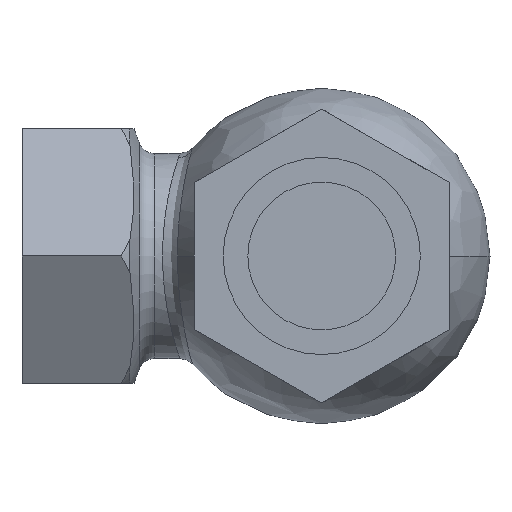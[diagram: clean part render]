
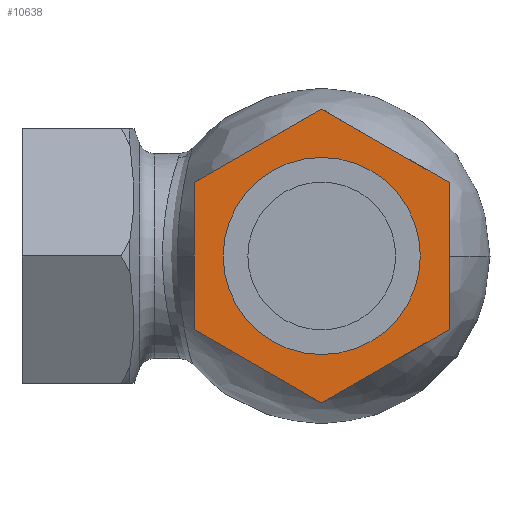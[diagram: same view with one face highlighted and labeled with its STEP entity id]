
A CAD part, front view. The second image highlights one B-rep face of the part: STEP entity #10638.
In plain terms, the highlighted planar face has unit normal (0, -1, 0).
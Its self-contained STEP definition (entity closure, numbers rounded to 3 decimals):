
#314 = VECTOR ( 'NONE', #8858, 1000. ) ;
#316 = LINE ( 'NONE', #1165, #314 ) ;
#414 = DIRECTION ( 'NONE',  ( 0., 1., 0. ) ) ;
#592 = ORIENTED_EDGE ( 'NONE', *, *, #2344, .T. ) ;
#664 = CARTESIAN_POINT ( 'NONE',  ( -15.5, -30.3, 8.949 ) ) ;
#935 = DIRECTION ( 'NONE',  ( 0., 1., 0. ) ) ;
#956 = CARTESIAN_POINT ( 'NONE',  ( -15.5, -30.3, -8.949 ) ) ;
#1165 = CARTESIAN_POINT ( 'NONE',  ( 15.5, -30.3, -8.949 ) ) ;
#1255 = VERTEX_POINT ( 'NONE', #2432 ) ;
#1376 = CIRCLE ( 'NONE', #9179, 12. ) ;
#1392 = CARTESIAN_POINT ( 'NONE',  ( 15.5, -30.3, -8.949 ) ) ;
#1470 = CARTESIAN_POINT ( 'NONE',  ( 0., -30.3, 0. ) ) ;
#1830 = CARTESIAN_POINT ( 'NONE',  ( 0., -30.3, 17.898 ) ) ;
#1840 = CARTESIAN_POINT ( 'NONE',  ( -15.5, -30.3, 8.949 ) ) ;
#2038 = CARTESIAN_POINT ( 'NONE',  ( 15.5, -30.3, 8.949 ) ) ;
#2344 = EDGE_CURVE ( 'NONE', #6467, #3892, #3913, .T. ) ;
#2366 = DIRECTION ( 'NONE',  ( 0., 0., 1. ) ) ;
#2432 = CARTESIAN_POINT ( 'NONE',  ( 0., -30.3, 12. ) ) ;
#2640 = EDGE_CURVE ( 'NONE', #1255, #7962, #10545, .T. ) ;
#2903 = ORIENTED_EDGE ( 'NONE', *, *, #9429, .T. ) ;
#2905 = VECTOR ( 'NONE', #9070, 1000. ) ;
#3036 = CARTESIAN_POINT ( 'NONE',  ( -15.5, -30.3, -8.949 ) ) ;
#3851 = VECTOR ( 'NONE', #9807, 1000. ) ;
#3852 = ORIENTED_EDGE ( 'NONE', *, *, #6243, .T. ) ;
#3892 = VERTEX_POINT ( 'NONE', #1392 ) ;
#3913 = LINE ( 'NONE', #4650, #2905 ) ;
#4650 = CARTESIAN_POINT ( 'NONE',  ( 0., -30.3, -17.898 ) ) ;
#4760 = DIRECTION ( 'NONE',  ( 0., 0., -1. ) ) ;
#4969 = CARTESIAN_POINT ( 'NONE',  ( 0., -30.3, -17.898 ) ) ;
#5069 = CARTESIAN_POINT ( 'NONE',  ( 15.5, -30.3, 8.949 ) ) ;
#5170 = EDGE_LOOP ( 'NONE', ( #5495, #10763 ) ) ;
#5231 = DIRECTION ( 'NONE',  ( -0.866, 0., -0.5 ) ) ;
#5397 = LINE ( 'NONE', #1830, #7056 ) ;
#5495 = ORIENTED_EDGE ( 'NONE', *, *, #2640, .T. ) ;
#5759 = AXIS2_PLACEMENT_3D ( 'NONE', #8528, #935, #2366 ) ;
#5893 = FACE_BOUND ( 'NONE', #5170, .T. ) ;
#6063 = ORIENTED_EDGE ( 'NONE', *, *, #8926, .T. ) ;
#6243 = EDGE_CURVE ( 'NONE', #8183, #6971, #5397, .T. ) ;
#6271 = VERTEX_POINT ( 'NONE', #5069 ) ;
#6467 = VERTEX_POINT ( 'NONE', #4969 ) ;
#6526 = VECTOR ( 'NONE', #4760, 1000. ) ;
#6718 = VECTOR ( 'NONE', #7148, 1000. ) ;
#6971 = VERTEX_POINT ( 'NONE', #664 ) ;
#7056 = VECTOR ( 'NONE', #5231, 1000. ) ;
#7131 = VERTEX_POINT ( 'NONE', #956 ) ;
#7148 = DIRECTION ( 'NONE',  ( -0.866, 0., 0.5 ) ) ;
#7307 = FACE_OUTER_BOUND ( 'NONE', #8562, .T. ) ;
#7505 = EDGE_CURVE ( 'NONE', #6971, #7131, #10693, .T. ) ;
#7538 = DIRECTION ( 'NONE',  ( 0., 0., 1. ) ) ;
#7895 = ORIENTED_EDGE ( 'NONE', *, *, #10463, .T. ) ;
#7962 = VERTEX_POINT ( 'NONE', #8103 ) ;
#8024 = DIRECTION ( 'NONE',  ( 0., 0., 1. ) ) ;
#8103 = CARTESIAN_POINT ( 'NONE',  ( 0., -30.3, -12. ) ) ;
#8183 = VERTEX_POINT ( 'NONE', #8268 ) ;
#8268 = CARTESIAN_POINT ( 'NONE',  ( 0., -30.3, 17.898 ) ) ;
#8302 = AXIS2_PLACEMENT_3D ( 'NONE', #9132, #10926, #7538 ) ;
#8528 = CARTESIAN_POINT ( 'NONE',  ( 0., -30.3, 0. ) ) ;
#8562 = EDGE_LOOP ( 'NONE', ( #2903, #3852, #10916, #6063, #592, #7895 ) ) ;
#8858 = DIRECTION ( 'NONE',  ( 0., 0., 1. ) ) ;
#8926 = EDGE_CURVE ( 'NONE', #7131, #6467, #10657, .T. ) ;
#9070 = DIRECTION ( 'NONE',  ( 0.866, 0., 0.5 ) ) ;
#9132 = CARTESIAN_POINT ( 'NONE',  ( 12., -30.3, 0. ) ) ;
#9179 = AXIS2_PLACEMENT_3D ( 'NONE', #1470, #414, #8024 ) ;
#9429 = EDGE_CURVE ( 'NONE', #6271, #8183, #10330, .T. ) ;
#9758 = EDGE_CURVE ( 'NONE', #7962, #1255, #1376, .T. ) ;
#9807 = DIRECTION ( 'NONE',  ( 0.866, 0., -0.5 ) ) ;
#10330 = LINE ( 'NONE', #2038, #6718 ) ;
#10463 = EDGE_CURVE ( 'NONE', #3892, #6271, #316, .T. ) ;
#10545 = CIRCLE ( 'NONE', #5759, 12. ) ;
#10638 = ADVANCED_FACE ( 'NONE', ( #5893, #7307 ), #10698, .F. ) ;
#10657 = LINE ( 'NONE', #3036, #3851 ) ;
#10693 = LINE ( 'NONE', #1840, #6526 ) ;
#10698 = PLANE ( 'NONE',  #8302 ) ;
#10763 = ORIENTED_EDGE ( 'NONE', *, *, #9758, .T. ) ;
#10916 = ORIENTED_EDGE ( 'NONE', *, *, #7505, .T. ) ;
#10926 = DIRECTION ( 'NONE',  ( 0., 1., 0. ) ) ;
